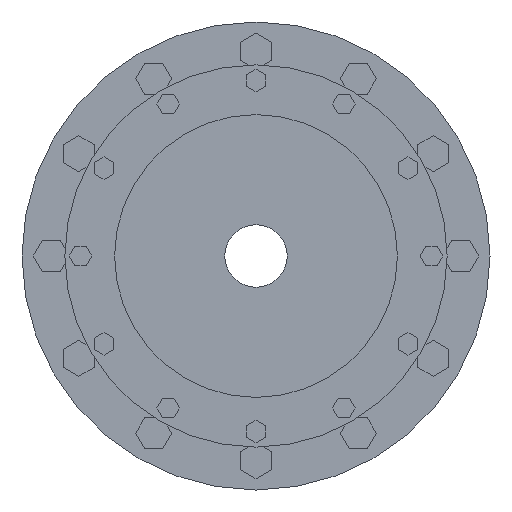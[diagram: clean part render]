
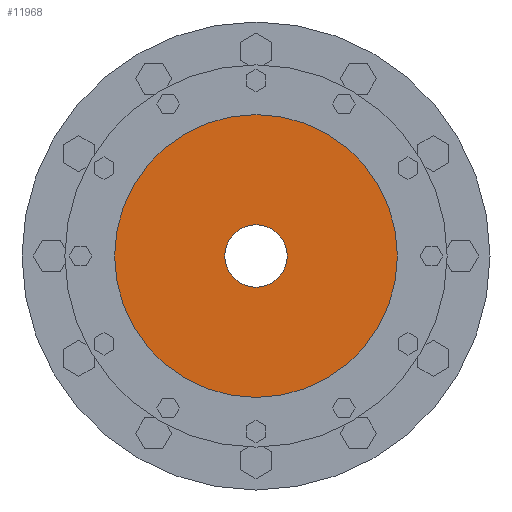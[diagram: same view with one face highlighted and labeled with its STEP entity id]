
A CAD part, left-side view. The second image highlights one B-rep face of the part: STEP entity #11968.
In plain terms, the highlighted planar face has unit normal (-1, 0, 0).
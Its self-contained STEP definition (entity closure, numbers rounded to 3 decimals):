
#11666=CARTESIAN_POINT('',(-114.,0.,0.));
#11667=DIRECTION('',(1.,0.,0.));
#11668=DIRECTION('',(0.,1.,0.));
#11669=AXIS2_PLACEMENT_3D('',#11666,#11667,#11668);
#11745=CARTESIAN_POINT('',(-114.,0.,0.));
#11746=DIRECTION('',(-1.,0.,0.));
#11747=DIRECTION('',(0.,1.,0.));
#11748=AXIS2_PLACEMENT_3D('',#11745,#11746,#11747);
#11750=CARTESIAN_POINT('',(-114.,0.,0.));
#11751=DIRECTION('',(1.,0.,0.));
#11752=DIRECTION('',(0.,1.,0.));
#11753=AXIS2_PLACEMENT_3D('',#11750,#11751,#11752);
#11764=CARTESIAN_POINT('',(-114.,0.,0.));
#11765=DIRECTION('',(-1.,0.,0.));
#11766=DIRECTION('',(0.,1.,0.));
#11767=AXIS2_PLACEMENT_3D('',#11764,#11765,#11766);
#11773=CARTESIAN_POINT('',(-114.,16.,0.));
#11774=CARTESIAN_POINT('',(-114.,-16.,0.));
#11775=VERTEX_POINT('',#11773);
#11776=VERTEX_POINT('',#11774);
#11777=CARTESIAN_POINT('',(-114.,72.5,0.));
#11778=CARTESIAN_POINT('',(-114.,-72.5,0.));
#11779=VERTEX_POINT('',#11777);
#11780=VERTEX_POINT('',#11778);
#11954=CARTESIAN_POINT('',(-114.,0.,0.));
#11955=DIRECTION('',(1.,0.,0.));
#11956=DIRECTION('',(0.,-1.,0.));
#11957=AXIS2_PLACEMENT_3D('',#11954,#11955,#11956);
#11958=PLANE('',#11957);
#11959=ORIENTED_EDGE('',*,*,#11936,.F.);
#11960=ORIENTED_EDGE('',*,*,#11949,.T.);
#11961=EDGE_LOOP('',(#11959,#11960));
#11962=FACE_OUTER_BOUND('',#11961,.F.);
#11963=ORIENTED_EDGE('',*,*,#11814,.F.);
#11965=ORIENTED_EDGE('',*,*,#11964,.T.);
#11966=EDGE_LOOP('',(#11963,#11965));
#11967=FACE_BOUND('',#11966,.F.);
#11968=ADVANCED_FACE('',(#11962,#11967),#11958,.F.);
#11670=CIRCLE('',#11669,16.);
#11749=CIRCLE('',#11748,72.5);
#11754=CIRCLE('',#11753,72.5);
#11768=CIRCLE('',#11767,16.);
#11814=EDGE_CURVE('',#11775,#11776,#11670,.T.);
#11936=EDGE_CURVE('',#11779,#11780,#11749,.T.);
#11949=EDGE_CURVE('',#11779,#11780,#11754,.T.);
#11964=EDGE_CURVE('',#11775,#11776,#11768,.T.);
